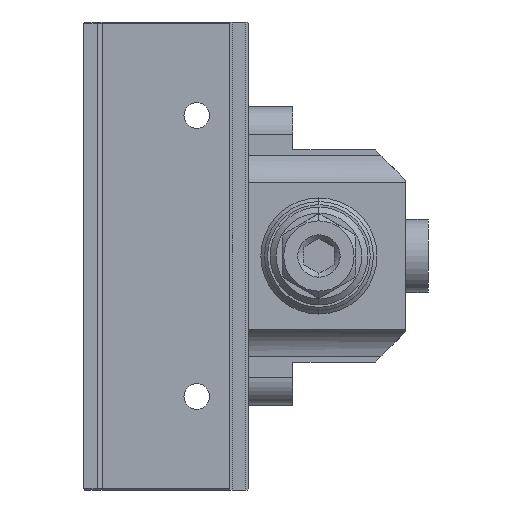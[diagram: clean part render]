
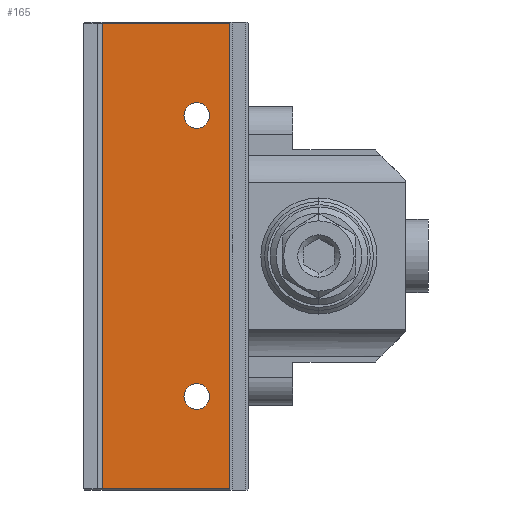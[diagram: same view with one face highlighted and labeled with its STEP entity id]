
A CAD part, left-side view. The second image highlights one B-rep face of the part: STEP entity #165.
In plain terms, the highlighted planar face has unit normal (-1, 0, 0).
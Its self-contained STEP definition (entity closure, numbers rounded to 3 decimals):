
#163 = VERTEX_POINT ( 'NONE', #5817 ) ;
#165 = ADVANCED_FACE ( 'NONE', ( #2262, #3444, #1054 ), #2852, .F. ) ;
#423 = VECTOR ( 'NONE', #6524, 1000. ) ;
#641 = VERTEX_POINT ( 'NONE', #4303 ) ;
#689 = CARTESIAN_POINT ( 'NONE',  ( -16.5, 35.5, -38.3 ) ) ;
#709 = ORIENTED_EDGE ( 'NONE', *, *, #6638, .T. ) ;
#729 = EDGE_CURVE ( 'NONE', #5327, #3204, #6568, .T. ) ;
#953 = EDGE_CURVE ( 'NONE', #4504, #4058, #2454, .T. ) ;
#992 = CARTESIAN_POINT ( 'NONE',  ( -16.5, 20., -23. ) ) ;
#998 = AXIS2_PLACEMENT_3D ( 'NONE', #6601, #1279, #3640 ) ;
#1054 = FACE_OUTER_BOUND ( 'NONE', #6625, .T. ) ;
#1176 = LINE ( 'NONE', #4627, #5323 ) ;
#1218 = ORIENTED_EDGE ( 'NONE', *, *, #729, .T. ) ;
#1279 = DIRECTION ( 'NONE',  ( 1., 0., 0. ) ) ;
#1323 = AXIS2_PLACEMENT_3D ( 'NONE', #992, #3391, #2205 ) ;
#1326 = VECTOR ( 'NONE', #4012, 1000. ) ;
#1498 = CARTESIAN_POINT ( 'NONE',  ( -16.5, 14.7, 38.1 ) ) ;
#1596 = AXIS2_PLACEMENT_3D ( 'NONE', #6678, #6154, #2006 ) ;
#1659 = ORIENTED_EDGE ( 'NONE', *, *, #6887, .T. ) ;
#1684 = CARTESIAN_POINT ( 'NONE',  ( -16.5, 20., -23. ) ) ;
#1731 = DIRECTION ( 'NONE',  ( 0., 0., -1. ) ) ;
#1825 = VERTEX_POINT ( 'NONE', #7371 ) ;
#1895 = DIRECTION ( 'NONE',  ( 0., 0., 1. ) ) ;
#1943 = EDGE_CURVE ( 'NONE', #1825, #641, #5486, .T. ) ;
#2006 = DIRECTION ( 'NONE',  ( 0., 0., -1. ) ) ;
#2031 = EDGE_LOOP ( 'NONE', ( #709, #6857 ) ) ;
#2069 = AXIS2_PLACEMENT_3D ( 'NONE', #5252, #4583, #7601 ) ;
#2174 = CARTESIAN_POINT ( 'NONE',  ( -16.5, 11.5, -38.1 ) ) ;
#2205 = DIRECTION ( 'NONE',  ( 0., 0., -1. ) ) ;
#2227 = DIRECTION ( 'NONE',  ( 1., 0., 0. ) ) ;
#2262 = FACE_BOUND ( 'NONE', #4164, .T. ) ;
#2454 = CIRCLE ( 'NONE', #998, 2.1 ) ;
#2765 = LINE ( 'NONE', #2174, #1326 ) ;
#2852 = PLANE ( 'NONE',  #2069 ) ;
#2894 = ORIENTED_EDGE ( 'NONE', *, *, #6507, .T. ) ;
#2897 = CARTESIAN_POINT ( 'NONE',  ( -16.5, 20., 20.9 ) ) ;
#3204 = VERTEX_POINT ( 'NONE', #1498 ) ;
#3369 = AXIS2_PLACEMENT_3D ( 'NONE', #1684, #2227, #1731 ) ;
#3391 = DIRECTION ( 'NONE',  ( 1., 0., 0. ) ) ;
#3444 = FACE_BOUND ( 'NONE', #2031, .T. ) ;
#3565 = CARTESIAN_POINT ( 'NONE',  ( -16.5, 14.7, -38.3 ) ) ;
#3640 = DIRECTION ( 'NONE',  ( 0., 0., -1. ) ) ;
#3948 = CIRCLE ( 'NONE', #1596, 2.1 ) ;
#4012 = DIRECTION ( 'NONE',  ( 0., -1., 0. ) ) ;
#4058 = VERTEX_POINT ( 'NONE', #2897 ) ;
#4067 = LINE ( 'NONE', #689, #423 ) ;
#4164 = EDGE_LOOP ( 'NONE', ( #4560, #4715 ) ) ;
#4303 = CARTESIAN_POINT ( 'NONE',  ( -16.5, 20., -25.1 ) ) ;
#4504 = VERTEX_POINT ( 'NONE', #6510 ) ;
#4560 = ORIENTED_EDGE ( 'NONE', *, *, #5623, .T. ) ;
#4583 = DIRECTION ( 'NONE',  ( 1., 0., 0. ) ) ;
#4627 = CARTESIAN_POINT ( 'NONE',  ( -16.5, 35.5, 38.1 ) ) ;
#4715 = ORIENTED_EDGE ( 'NONE', *, *, #1943, .T. ) ;
#4980 = EDGE_CURVE ( 'NONE', #6069, #163, #4067, .T. ) ;
#5048 = CIRCLE ( 'NONE', #1323, 2.1 ) ;
#5252 = CARTESIAN_POINT ( 'NONE',  ( -16.5, 4.25, -24.4 ) ) ;
#5323 = VECTOR ( 'NONE', #7575, 1000. ) ;
#5327 = VERTEX_POINT ( 'NONE', #7040 ) ;
#5486 = CIRCLE ( 'NONE', #3369, 2.1 ) ;
#5623 = EDGE_CURVE ( 'NONE', #641, #1825, #5048, .T. ) ;
#5817 = CARTESIAN_POINT ( 'NONE',  ( -16.5, 35.5, 38.1 ) ) ;
#6069 = VERTEX_POINT ( 'NONE', #6832 ) ;
#6154 = DIRECTION ( 'NONE',  ( 1., 0., 0. ) ) ;
#6507 = EDGE_CURVE ( 'NONE', #6069, #5327, #2765, .T. ) ;
#6510 = CARTESIAN_POINT ( 'NONE',  ( -16.5, 20., 25.1 ) ) ;
#6524 = DIRECTION ( 'NONE',  ( 0., 0., 1. ) ) ;
#6568 = LINE ( 'NONE', #3565, #6925 ) ;
#6601 = CARTESIAN_POINT ( 'NONE',  ( -16.5, 20., 23. ) ) ;
#6625 = EDGE_LOOP ( 'NONE', ( #2894, #1218, #1659, #7639 ) ) ;
#6638 = EDGE_CURVE ( 'NONE', #4058, #4504, #3948, .T. ) ;
#6678 = CARTESIAN_POINT ( 'NONE',  ( -16.5, 20., 23. ) ) ;
#6832 = CARTESIAN_POINT ( 'NONE',  ( -16.5, 35.5, -38.1 ) ) ;
#6857 = ORIENTED_EDGE ( 'NONE', *, *, #953, .T. ) ;
#6887 = EDGE_CURVE ( 'NONE', #3204, #163, #1176, .T. ) ;
#6925 = VECTOR ( 'NONE', #1895, 1000. ) ;
#7040 = CARTESIAN_POINT ( 'NONE',  ( -16.5, 14.7, -38.1 ) ) ;
#7371 = CARTESIAN_POINT ( 'NONE',  ( -16.5, 20., -20.9 ) ) ;
#7575 = DIRECTION ( 'NONE',  ( 0., 1., 0. ) ) ;
#7601 = DIRECTION ( 'NONE',  ( 0., 0., -1. ) ) ;
#7639 = ORIENTED_EDGE ( 'NONE', *, *, #4980, .F. ) ;
